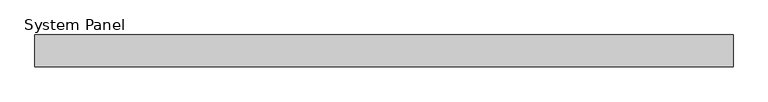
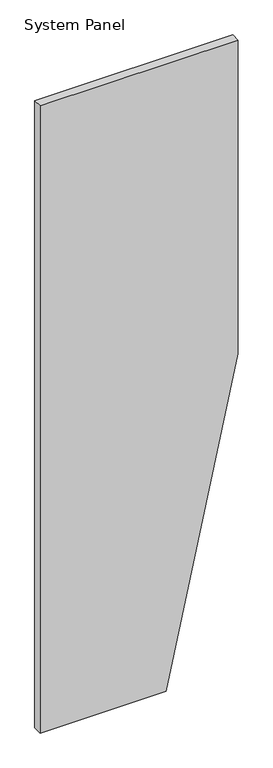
"""IFC4 building model written with IfcOpenShell, lengths in millimetres: plate geometry, System Panel : MetecnoPanel_50mm_Plain_Surfmist."""

from ifc_helpers import new_model, si_unit, frame, origin, place, context, project, spatial, polyline, outline, extrude, source, transform, mapped, element, save


def system_panel_a8e93ce1(model_context):
    return source(origin(), model_context, "Body", "SweptSolid", [
        extrude(outline(polyline([(0.0, -550.0), (0.0, 150.0), (1839.9852118, 550.0), (3679.9704237, 550.0), (3679.9704237, -550.0), (0.0, -550.0)])), frame((0.0, -50.0, 0.0), z_axis=(0.0, 1.0, 0.0), x_axis=(0.0, 0.0, 1.0)), (0.0, 0.0, 1.0), 50.0),
    ])


if __name__ == "__main__":
    model = new_model("IFC4")
    model_context = context("Model", 3, world=origin())
    ifc_project = project(units=[si_unit("LENGTHUNIT", "METRE", prefix="MILLI")], contexts=[model_context])
    site = spatial("IfcSite", under=ifc_project)
    building = spatial("IfcBuilding", under=site)
    placement = place(None, origin())
    system_panel_shape = system_panel_a8e93ce1(model_context)
    element("IfcPlate", 1, ObjectType="System Panel : MetecnoPanel_50mm_Plain_Surfmist", at=placement, inside=building, context=model_context, shape_type="MappedRepresentation", body=[
        mapped(system_panel_shape, transform((0.0, 0.0, 0.0), x_axis=(1.0, 0.0, 0.0), y_axis=(0.0, 1.0, 0.0), z_axis=(0.0, 0.0, 1.0))),
    ])
    save(model, "model.ifc")
